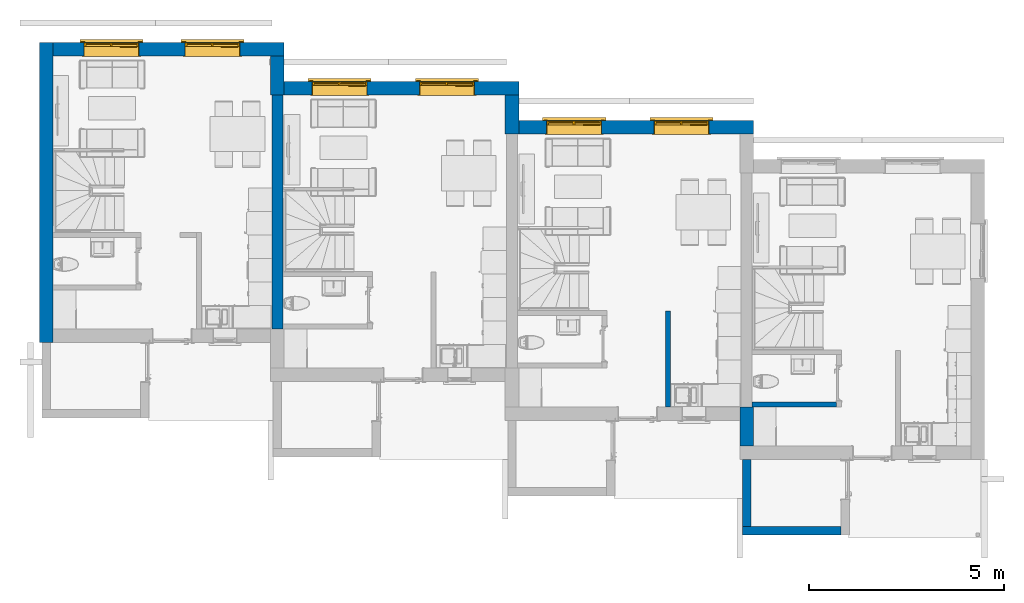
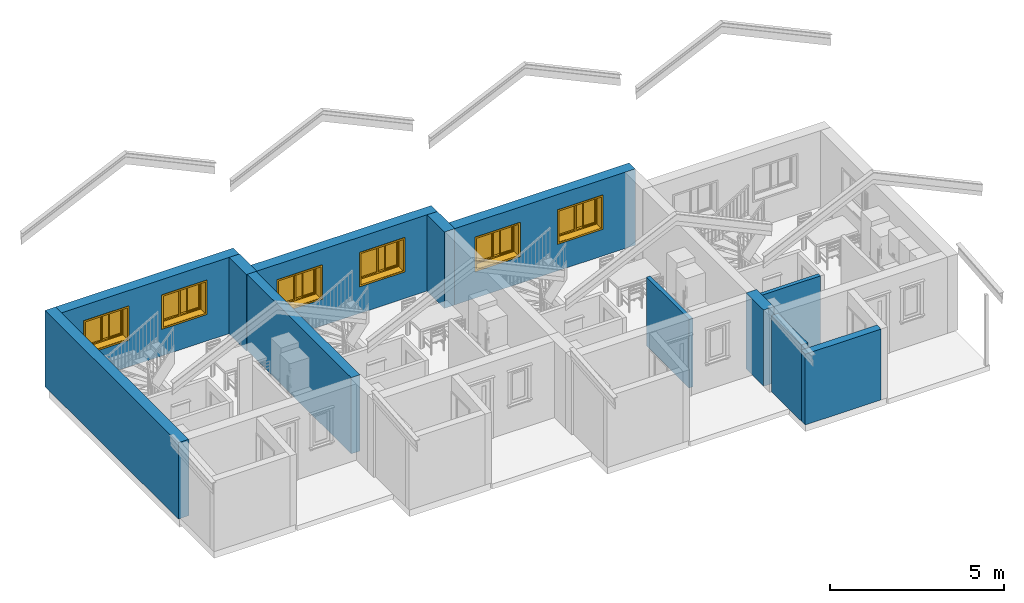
# One storey, part 18 of 65: 12 walls, 6 windows, 6 openings.
"""IFC2X3 building model written with IfcOpenShell, lengths in millimetres."""

from ifc_helpers import new_model, entity, si_unit, converted_unit, direction, frame, frame_2d, origin, place, context, subcontext, project, spatial, polyline, rectangle, extrude, clip, bounded_halfspace, faceted_brep, source, transform, mapped, material, material_list, layer, layer_set, layer_usage, type_object, type_shapes, element, fill, save


model = new_model("IFC2X3")

# Units and contexts
model_context = context("Model", 3, precision=0.01, world=origin(), true_north=direction((0.0, 1.0)))
body_context = subcontext(model_context, "Body", "Model", "MODEL_VIEW")
ifc_project = project(units=[si_unit("LENGTHUNIT", "METRE", prefix="MILLI"), si_unit("AREAUNIT", "SQUARE_METRE"), si_unit("VOLUMEUNIT", "CUBIC_METRE"), converted_unit("PLANEANGLEUNIT", "DEGREE", entity("IfcPlaneAngleMeasure", 0.017453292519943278), si_unit("PLANEANGLEUNIT", "RADIAN"), dimensions=[0, 0, 0, 0, 0, 0, 0])], contexts=[model_context])

# Site, building, storey
site_placement = place(None, origin())
site = spatial("IfcSite", under=ifc_project, at=site_placement, Name="Default", CompositionType="ELEMENT")
building_placement = place(site_placement, origin())
building = spatial("IfcBuilding", under=site, at=building_placement, CompositionType="ELEMENT")
storey_placement = place(building_placement, origin())
storey = spatial("IfcBuildingStorey", under=building, at=storey_placement, Name="Et. 1", CompositionType="ELEMENT", Elevation=0.0)

# Wall
ifc_material_1 = material(Name="Vegg - Stående Kledning_smal - HVIT")
ifc_layer_1 = layer(ifc_material_1, 19.0)
ifc_material_2 = material(Name="Vegg - Utlekting")
ifc_layer_2 = layer(ifc_material_2, 36.0)
ifc_layer_3 = layer(ifc_material_2, 23.0)
ifc_material_3 = material(Name="Vegg - Gips - GU")
ifc_layer_4 = layer(ifc_material_3, 9.0)
ifc_material_4 = material(Name="Vegg - Stender - Isolert")
ifc_layer_5 = layer(ifc_material_4, 198.0)
ifc_material_5 = material(Name="Vegg - Påforing - Isolert")
ifc_layer_6 = layer(ifc_material_5, 48.0)
ifc_material_6 = material(Name="Vegg - Gips - Hvit")
ifc_layer_7 = layer(ifc_material_6, 13.000000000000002)
ifc_layer_set_1 = layer_set([ifc_layer_1, ifc_layer_2, ifc_layer_3, ifc_layer_4, ifc_layer_5, ifc_layer_6, ifc_layer_7], Name="Basic Wall:23-Kv(sm)TIG-19_36_23_9_198_48_13")
ifc_layer_usage_1 = layer_usage(ifc_layer_set_1, "AXIS2", "NEGATIVE", 173.0)
wall_type_1 = type_object("IfcWallType", Name="Basic Wall:23-Kv(sm)TIG-19_36_23_9_198_48_13", PredefinedType="STANDARD", material=ifc_layer_set_1)
wall_1_placement = place(storey_placement, frame((10264.0095867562, 11408.180957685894, 0.0), z_axis=(0.0, 0.0, 1.0), x_axis=(0.0, 1.0, 0.0)))
element("IfcWallStandardCase", 1, at=wall_1_placement, inside=storey, type_object=wall_type_1, material=ifc_layer_usage_1, Name="Basic Wall:23-Kv(sm)TIG-19_36_23_9_198_48_13", context=body_context, shape_type="SweptSolid", body=[
    extrude(rectangle(XDim=7674.0000000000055, YDim=345.9999999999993, at=frame_2d((3837.0000000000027, 5.258016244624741e-13), x_axis=(-1.0, 0.0))), origin(), (0.0, 0.0, 1.0), 2681.0),
])

# Wall, openings, windows
ifc_layer_usage_2 = layer_usage(ifc_layer_set_1, "AXIS2", "NEGATIVE", 173.0)
wall_2_placement = place(storey_placement, frame((10437.00958675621, 18909.180957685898, 0.0)))
wall_2 = element("IfcWallStandardCase", 2, at=wall_2_placement, inside=storey, type_object=wall_type_1, material=ifc_layer_usage_2, Name="Basic Wall:23-Kv(sm)TIG-19_36_23_9_198_48_13", context=body_context, shape_type="SweptSolid", body=[
    extrude(rectangle(XDim=5913.999999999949, YDim=345.9999999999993, at=frame_2d((2956.9999999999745, 2.984279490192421e-13), x_axis=(-1.0, 0.0))), origin(), (0.0, 0.0, 1.0), 2681.0),
])
opening_1_placement = place(wall_2_placement, frame((3371.0, -173.0, 990.0)))
opening_1 = element("IfcOpeningElement", 3, at=opening_1_placement, cuts=wall_2, Name="2 ruter vert-post åpning-fast m omramming:14x11M:1", ObjectType="Opening", context=body_context, shape_type="SweptSolid", body=[
    extrude(rectangle(XDim=1410.0000000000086, YDim=1109.9999999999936, at=frame_2d((554.9999999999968, 705.0000000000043), x_axis=(0.0, -1.0))), frame((0.0, 0.0, 0.0), z_axis=(0.0, 1.0, 0.0), x_axis=(0.0, 0.0, 1.0)), (0.0, 0.0, 1.0), 346.0),
])
opening_2_placement = place(wall_2_placement, frame((787.0, -173.0, 990.0)))
opening_2 = element("IfcOpeningElement", 4, at=opening_2_placement, cuts=wall_2, Name="2 ruter vert-post åpning-fast m omramming:14x11M:1", ObjectType="Opening", context=body_context, shape_type="SweptSolid", body=[
    extrude(rectangle(XDim=1410.0000000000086, YDim=1109.9999999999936, at=frame_2d((554.9999999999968, 705.0000000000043), x_axis=(0.0, -1.0))), frame((0.0, 0.0, 0.0), z_axis=(0.0, 1.0, 0.0), x_axis=(0.0, 0.0, 1.0)), (0.0, 0.0, 1.0), 346.0),
])
ifc_material_7 = material(Name="Omramming")
ifc_material_8 = material(Name="Glass - Klart")
ifc_material_9 = material(Name="Karm")
ifc_material_list = material_list([ifc_material_7, ifc_material_8, ifc_material_9])
window_style = type_object("IfcWindowStyle", Name="2 ruter vert-post åpning-fast m omramming:14x11M", ConstructionType="NOTDEFINED", OperationType="NOTDEFINED", ParameterTakesPrecedence=False, Sizeable=False, material=ifc_material_list)
shared_shape = source(origin(), body_context, "Body", "Brep", [
    faceted_brep([(-73.0, 368.0, 1199.153701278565), (25.0, 368.0, 1199.153701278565), (25.0, 368.0, 4.105117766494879), (-73.0, 368.0, 4.105117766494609), (1385.0, 346.0, -110.0), (1483.0, 346.0, -110.0), (1483.0, 346.0, -12.776075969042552), (1513.0, 346.0, -12.776075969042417), (1513.0, 346.0, 10.0), (1483.0, 346.0, 10.0), (1483.0, 346.0, 1199.153701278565), (1385.0, 346.0, 1199.153701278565), (1385.0, 346.0, 10.0), (25.0, 346.0, 10.0), (25.0, 346.0, 1199.153701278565), (-73.0, 346.0, 1199.153701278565), (-73.0, 346.0, 10.0), (-103.0, 346.0, 10.0), (-103.0, 346.0, -12.776075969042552), (-73.0, 346.0, -12.776075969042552), (-73.0, 346.0, -110.0), (25.0, 346.0, -110.0), (25.0, 346.0, -12.776075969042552), (1385.0, 346.0, -12.776075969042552), (1483.0, 368.0, 1199.153701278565), (1385.0, 368.0, 1199.153701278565), (1483.0, 368.0, 4.105117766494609), (1385.0, 368.0, -110.0), (1483.0, 368.0, -110.0), (1385.0, 368.0, 4.105117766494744), (-73.0, 368.0, -110.0), (25.0, 368.0, -110.0), (-103.0, 413.6148078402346, -30.89340912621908), (-103.0, 419.3088268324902, -9.643040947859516), (1513.0, 413.6148078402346, -30.89340912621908), (1513.0, 419.3088268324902, -9.643040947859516), (1483.0, 368.0, -18.670958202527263), (1385.0, 368.0, -18.670958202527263), (25.0, 368.0, -18.670958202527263), (-73.0, 368.0, -18.670958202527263)], [[[0, 1, 2, 3]], [[4, 5, 6, 7, 8, 9, 10, 11, 12, 13, 14, 15, 16, 17, 18, 19, 20, 21, 22, 23]], [[24, 25, 11, 10]], [[24, 10, 9, 26]], [[27, 28, 5, 4]], [[11, 25, 29, 12]], [[1, 0, 15, 14]], [[1, 14, 13, 2]], [[30, 31, 21, 20]], [[15, 0, 3, 16]], [[32, 18, 17, 33]], [[34, 35, 8, 7]], [[18, 32, 34, 7, 6, 36, 37, 23, 22, 38, 39, 19]], [[33, 17, 16, 3, 2, 13, 12, 29, 26, 9, 8, 35]], [[32, 33, 35, 34]], [[30, 20, 19, 39]], [[21, 31, 38, 22]], [[27, 4, 23, 37]], [[5, 28, 36, 6]], [[31, 30, 39, 38]], [[25, 24, 26, 29]], [[28, 27, 37, 36]]]),
    faceted_brep([(1513.0, 413.52687511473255, 1180.8011105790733), (1513.0, 418.4444369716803, 1199.153701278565), (1513.0, 346.0, 1218.5651296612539), (1513.0, 346.0, 1198.894882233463), (-103.0, 413.52687511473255, 1180.8011105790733), (-103.0, 346.0, 1198.894882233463), (-103.0, 346.0, 1218.5651296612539), (-103.0, 418.4444369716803, 1199.153701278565)], [[[0, 1, 2, 3]], [[4, 5, 6, 7]], [[1, 0, 4, 7]], [[2, 1, 7, 6]], [[3, 2, 6, 5]], [[0, 3, 5, 4]]]),
    faceted_brep([(25.0, 368.0, 1193.0), (1385.0, 368.0, 1193.0), (1385.0, 368.0, 1095.0), (25.0, 368.0, 1095.0), (25.0, 346.0, 1193.0), (25.0, 346.0, 1095.0), (1385.0, 346.0, 1095.0), (1385.0, 346.0, 1193.0)], [[[0, 1, 2, 3]], [[4, 5, 6, 7]], [[1, 0, 4, 7]], [[2, 1, 7, 6]], [[3, 2, 6, 5]], [[0, 3, 5, 4]]]),
    faceted_brep([(1385.0, 368.0, -20.0), (25.0, 368.0, -20.0), (25.0, 346.0, -20.0), (1385.0, 346.0, -20.0), (1385.0, 368.0, -92.0), (1385.0, 346.0, -92.0), (25.0, 368.0, -92.0), (25.0, 346.0, -92.0)], [[[0, 1, 2, 3]], [[4, 0, 3, 5]], [[6, 4, 5, 7]], [[1, 6, 7, 2]], [[2, 7, 5, 3]], [[1, 0, 4, 6]]]),
    faceted_brep([(1345.0, 288.49999999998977, 65.0), (1345.0, 288.4999999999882, 1045.0), (735.0, 288.4999999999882, 1045.0), (735.0, 288.49999999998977, 65.0), (1345.0, 313.49999999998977, 65.0), (735.0, 313.49999999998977, 65.0), (735.0, 313.4999999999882, 1045.0), (1345.0, 313.4999999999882, 1045.0)], [[[0, 1, 2, 3]], [[4, 5, 6, 7]], [[1, 0, 4, 7]], [[2, 1, 7, 6]], [[3, 2, 6, 5]], [[0, 3, 5, 4]]]),
    faceted_brep([(720.0, 331.0, 50.0), (720.0, 331.0, 1060.0), (720.0, 239.0, 1060.0), (720.0, 239.0, 50.0), (1400.0, 239.0, 10.0), (1400.0, 239.0, 1100.0), (10.0, 239.0, 1100.0), (10.0, 239.0, 10.0), (680.0, 239.0, 1060.0), (680.0, 239.0, 50.0), (50.0, 239.0, 50.0), (50.0, 239.0, 1060.0), (925.0, 239.0, 1060.0), (1360.0, 239.0, 1060.0), (1360.0, 239.0, 50.0), (925.0, 239.0, 50.0), (680.0, 331.0, 1060.0), (680.0, 331.0, 50.0), (1360.0, 331.0, 50.0), (1360.0, 331.0, 1060.0), (50.0, 331.0, 1060.0), (50.0, 331.0, 50.0), (1400.0, 331.0, 1100.0), (1400.0, 331.0, 10.0), (10.0, 331.0, 10.0), (10.0, 331.0, 1100.0), (1360.0, 248.0, 50.0), (1360.0, 248.0, 1060.0), (925.0, 248.0, 1060.0), (940.0, 216.0, 65.0), (940.0, 248.0, 65.0), (940.0, 248.0, 1045.0), (940.0, 216.0, 1045.0), (1345.0, 248.0, 1045.0), (1345.0, 216.0, 1045.0), (1345.0, 248.0, 65.0), (1345.0, 216.0, 65.0), (925.0, 248.0, 50.0), (925.0, 216.0, 50.0), (925.0, 216.0, 1060.0), (1360.0, 216.0, 1060.0), (1360.0, 216.0, 50.0)], [[[0, 1, 2, 3]], [[4, 5, 6, 7], [8, 9, 10, 11], [3, 2, 12, 13, 14, 15]], [[9, 8, 16, 17]], [[1, 0, 18, 19], [17, 16, 20, 21], [22, 23, 24, 25]], [[4, 23, 22, 5]], [[19, 18, 26, 27]], [[5, 22, 25, 6]], [[1, 19, 27, 28, 12, 2]], [[6, 25, 24, 7]], [[20, 11, 10, 21]], [[23, 4, 7, 24]], [[21, 10, 9, 17]], [[29, 30, 31, 32]], [[32, 31, 33, 34]], [[34, 33, 35, 36]], [[30, 29, 36, 35]], [[31, 30, 35, 33], [37, 28, 27, 26]], [[38, 39, 12, 28, 37, 15]], [[39, 40, 13, 12]], [[40, 41, 14, 13]], [[29, 32, 34, 36], [39, 38, 41, 40]], [[41, 38, 15, 14]], [[18, 0, 3, 15, 37, 26]], [[11, 20, 16, 8]]], outer=[[True], [True, False, False], [True], [False, False, True], [True], [True], [True], [True], [True], [True], [True], [True], [True], [True], [True], [True], [False, True], [True], [True], [True], [False, True], [True], [True], [True]]),
    faceted_brep([(680.0, 288.49999999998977, 50.0), (680.0, 288.4999999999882, 1060.0), (50.0, 288.4999999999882, 1060.0), (50.0, 288.49999999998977, 50.0), (680.0, 313.49999999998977, 50.0), (50.0, 313.49999999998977, 50.0), (50.0, 313.4999999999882, 1060.0), (680.0, 313.4999999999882, 1060.0)], [[[0, 1, 2, 3]], [[4, 5, 6, 7]], [[1, 0, 4, 7]], [[2, 1, 7, 6]], [[3, 2, 6, 5]], [[0, 3, 5, 4]]]),
    faceted_brep([(1410.0, 239.0, 1110.0), (1410.0, 239.0, 0.0), (0.0, 239.0, 0.0), (0.0, 239.0, 1110.0), (10.0, 239.0, 10.0), (1400.0, 239.0, 10.0), (1400.0, 239.0, 1100.0), (10.0, 239.0, 1100.0), (1410.0, 0.0, 1110.0), (0.0, 0.0, 1110.0), (0.0, 0.0, 0.0), (1410.0, 0.0, 0.0), (10.0, 0.0, 10.0), (10.0, 0.0, 1100.0), (1400.0, 0.0, 1100.0), (1400.0, 0.0, 10.0)], [[[0, 1, 2, 3], [4, 5, 6, 7]], [[8, 9, 10, 11], [12, 13, 14, 15]], [[1, 0, 8, 11]], [[2, 1, 11, 10]], [[3, 2, 10, 9]], [[0, 3, 9, 8]], [[5, 4, 12, 15]], [[6, 5, 15, 14]], [[7, 6, 14, 13]], [[4, 7, 13, 12]]]),
    faceted_brep([(1405.0, -12.0, 1105.0), (1405.0, 0.0, 1105.0), (1405.0, 0.0, 5.0), (1405.0, -12.0, 5.0), (1457.0, 0.0, 1157.0), (1457.0, -12.0, 1157.0), (1457.0, -12.0, -47.0), (1457.0, 0.0, -47.0), (5.0, 0.0, 5.0), (5.0, -12.0, 5.0), (-47.0, -12.0, -47.0), (-47.0, 0.0, -47.0), (5.0, 0.0, 1105.0), (5.0, -12.0, 1105.0), (-47.0, -12.0, 1157.0), (-47.0, 0.0, 1157.0)], [[[0, 1, 2, 3]], [[4, 5, 6, 7]], [[3, 2, 8, 9]], [[7, 6, 10, 11]], [[9, 8, 12, 13]], [[11, 10, 14, 15]], [[7, 11, 15, 4], [1, 12, 8, 2]], [[13, 12, 1, 0]], [[3, 9, 13, 0], [5, 14, 10, 6]], [[15, 14, 5, 4]]], outer=[[True], [True], [True], [True], [True], [True], [True, False], [True], [False, True], [True]]),
])
type_shapes(window_style, [shared_shape])
window_1_placement = place(opening_1_placement, origin())
window_1 = element("IfcWindow", 5, at=window_1_placement, inside=storey, type_object=window_style, material=ifc_material_list, Name="2 ruter vert-post åpning-fast m omramming:14x11M", OverallHeight=1109.9999999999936, OverallWidth=1410.0000000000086, context=body_context, shape_type="MappedRepresentation", body=[
    mapped(shared_shape, transform((0.0, 0.0, 0.0), scale=1.0)),
])
fill(opening_1, window_1)
window_2_placement = place(opening_2_placement, origin())
window_2 = element("IfcWindow", 6, at=window_2_placement, inside=storey, type_object=window_style, material=ifc_material_list, Name="2 ruter vert-post åpning-fast m omramming:14x11M", OverallHeight=1109.9999999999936, OverallWidth=1410.0000000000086, context=body_context, shape_type="MappedRepresentation", body=[
    mapped(shared_shape, transform((0.0, 0.0, 0.0), scale=1.0)),
])
fill(opening_2, window_2)

# Wall
ifc_layer_usage_3 = layer_usage(ifc_layer_set_1, "AXIS2", "NEGATIVE", 173.0)
wall_3_placement = place(storey_placement, frame((16178.009586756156, 18736.180957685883, 0.0), z_axis=(0.0, 0.0, 1.0), x_axis=(0.0, -1.0, 0.0)))
element("IfcWallStandardCase", 7, at=wall_3_placement, inside=storey, type_object=wall_type_1, material=ifc_layer_usage_3, Name="Basic Wall:23-Kv(sm)TIG-19_36_23_9_198_48_13", context=body_context, shape_type="SweptSolid", body=[
    extrude(rectangle(XDim=1000.0000000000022, YDim=345.9999999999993, at=frame_2d((500.0000000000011, 0.0), x_axis=(-1.0, 0.0))), origin(), (0.0, 0.0, 1.0), 2681.0),
])

# Wall, openings, windows
ifc_layer_usage_4 = layer_usage(ifc_layer_set_1, "AXIS2", "NEGATIVE", 173.0)
wall_4_placement = place(storey_placement, frame((16351.009586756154, 17909.18095768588, 0.0)))
wall_4 = element("IfcWallStandardCase", 8, at=wall_4_placement, inside=storey, type_object=wall_type_1, material=ifc_layer_usage_4, Name="Basic Wall:23-Kv(sm)TIG-19_36_23_9_198_48_13", context=body_context, shape_type="SweptSolid", body=[
    extrude(rectangle(XDim=6000.000000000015, YDim=345.9999999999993, at=frame_2d((3000.0000000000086, 4.405364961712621e-13), x_axis=(-1.0, 0.0))), origin(), (0.0, 0.0, 1.0), 2681.0),
])
opening_3_placement = place(wall_4_placement, frame((713.0, -173.0, 990.0)))
opening_3 = element("IfcOpeningElement", 9, at=opening_3_placement, cuts=wall_4, Name="2 ruter vert-post åpning-fast m omramming:14x11M:1", ObjectType="Opening", context=body_context, shape_type="SweptSolid", body=[
    extrude(rectangle(XDim=1410.0000000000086, YDim=1109.9999999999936, at=frame_2d((554.9999999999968, 705.0000000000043), x_axis=(0.0, -1.0))), frame((0.0, 0.0, 0.0), z_axis=(0.0, 1.0, 0.0), x_axis=(0.0, 0.0, 1.0)), (0.0, 0.0, 1.0), 346.0),
])
opening_4_placement = place(wall_4_placement, frame((3457.0, -173.0, 990.0)))
opening_4 = element("IfcOpeningElement", 10, at=opening_4_placement, cuts=wall_4, Name="2 ruter vert-post åpning-fast m omramming:14x11M:1", ObjectType="Opening", context=body_context, shape_type="SweptSolid", body=[
    extrude(rectangle(XDim=1410.0000000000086, YDim=1109.9999999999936, at=frame_2d((554.9999999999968, 705.0000000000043), x_axis=(0.0, -1.0))), frame((0.0, 0.0, 0.0), z_axis=(0.0, 1.0, 0.0), x_axis=(0.0, 0.0, 1.0)), (0.0, 0.0, 1.0), 346.0),
])
window_3_placement = place(opening_3_placement, origin())
window_3 = element("IfcWindow", 11, at=window_3_placement, inside=storey, type_object=window_style, material=ifc_material_list, Name="2 ruter vert-post åpning-fast m omramming:14x11M", OverallHeight=1109.9999999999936, OverallWidth=1410.0000000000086, context=body_context, shape_type="MappedRepresentation", body=[
    mapped(shared_shape, transform((0.0, 0.0, 0.0), scale=1.0)),
])
fill(opening_3, window_3)
window_4_placement = place(opening_4_placement, origin())
window_4 = element("IfcWindow", 12, at=window_4_placement, inside=storey, type_object=window_style, material=ifc_material_list, Name="2 ruter vert-post åpning-fast m omramming:14x11M", OverallHeight=1109.9999999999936, OverallWidth=1410.0000000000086, context=body_context, shape_type="MappedRepresentation", body=[
    mapped(shared_shape, transform((0.0, 0.0, 0.0), scale=1.0)),
])
fill(opening_4, window_4)

# Wall
ifc_layer_usage_5 = layer_usage(ifc_layer_set_1, "AXIS2", "NEGATIVE", 173.0)
wall_5_placement = place(storey_placement, frame((22178.00958675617, 17736.18095768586, 0.0), z_axis=(0.0, 0.0, 1.0), x_axis=(0.0, -1.0, 0.0)))
element("IfcWallStandardCase", 13, at=wall_5_placement, inside=storey, type_object=wall_type_1, material=ifc_layer_usage_5, Name="Basic Wall:23-Kv(sm)TIG-19_36_23_9_198_48_13", context=body_context, shape_type="SweptSolid", body=[
    extrude(rectangle(XDim=1000.0000000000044, YDim=345.9999999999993, at=frame_2d((500.0000000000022, 0.0), x_axis=(-1.0, 0.0))), origin(), (0.0, 0.0, 1.0), 2681.0),
])

# Wall, openings, windows
ifc_layer_usage_6 = layer_usage(ifc_layer_set_1, "AXIS2", "NEGATIVE", 173.0)
wall_6_placement = place(storey_placement, frame((22351.00958675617, 16909.180957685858, 0.0)))
wall_6 = element("IfcWallStandardCase", 14, at=wall_6_placement, inside=storey, type_object=wall_type_1, material=ifc_layer_usage_6, Name="Basic Wall:23-Kv(sm)TIG-19_36_23_9_198_48_13", context=body_context, shape_type="SweptSolid", body=[
    extrude(rectangle(XDim=6000.0000000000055, YDim=345.9999999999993, at=frame_2d((3000.0000000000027, -6.394884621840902e-13), x_axis=(-1.0, 0.0))), origin(), (0.0, 0.0, 1.0), 2681.0),
])
opening_5_placement = place(wall_6_placement, frame((713.0, -173.0, 990.0)))
opening_5 = element("IfcOpeningElement", 15, at=opening_5_placement, cuts=wall_6, Name="2 ruter vert-post åpning-fast m omramming:14x11M:1", ObjectType="Opening", context=body_context, shape_type="SweptSolid", body=[
    extrude(rectangle(XDim=1410.0000000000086, YDim=1109.9999999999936, at=frame_2d((554.9999999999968, 705.0000000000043), x_axis=(0.0, -1.0))), frame((0.0, 0.0, 0.0), z_axis=(0.0, 1.0, 0.0), x_axis=(0.0, 0.0, 1.0)), (0.0, 0.0, 1.0), 346.0),
])
opening_6_placement = place(wall_6_placement, frame((3457.0, -173.0, 990.0)))
opening_6 = element("IfcOpeningElement", 16, at=opening_6_placement, cuts=wall_6, Name="2 ruter vert-post åpning-fast m omramming:14x11M:1", ObjectType="Opening", context=body_context, shape_type="SweptSolid", body=[
    extrude(rectangle(XDim=1410.0000000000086, YDim=1109.9999999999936, at=frame_2d((554.9999999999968, 705.0000000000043), x_axis=(0.0, -1.0))), frame((0.0, 0.0, 0.0), z_axis=(0.0, 1.0, 0.0), x_axis=(0.0, 0.0, 1.0)), (0.0, 0.0, 1.0), 346.0),
])
window_5_placement = place(opening_5_placement, origin())
window_5 = element("IfcWindow", 17, at=window_5_placement, inside=storey, type_object=window_style, material=ifc_material_list, Name="2 ruter vert-post åpning-fast m omramming:14x11M", OverallHeight=1109.9999999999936, OverallWidth=1410.0000000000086, context=body_context, shape_type="MappedRepresentation", body=[
    mapped(shared_shape, transform((0.0, 0.0, 0.0), scale=1.0)),
])
fill(opening_5, window_5)
window_6_placement = place(opening_6_placement, origin())
window_6 = element("IfcWindow", 18, at=window_6_placement, inside=storey, type_object=window_style, material=ifc_material_list, Name="2 ruter vert-post åpning-fast m omramming:14x11M", OverallHeight=1109.9999999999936, OverallWidth=1410.0000000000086, context=body_context, shape_type="MappedRepresentation", body=[
    mapped(shared_shape, transform((0.0, 0.0, 0.0), scale=1.0)),
])
fill(opening_6, window_6)

# Walls
ifc_layer_usage_7 = layer_usage(ifc_layer_set_1, "AXIS2", "NEGATIVE", 173.0)
wall_7_placement = place(storey_placement, frame((28178.009586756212, 8754.180957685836, 0.0), z_axis=(0.0, 0.0, 1.0), x_axis=(0.0, 1.0, 0.0)))
element("IfcWallStandardCase", 19, at=wall_7_placement, inside=storey, type_object=wall_type_1, material=ifc_layer_usage_7, Name="Basic Wall:23-Kv(sm)TIG-19_36_23_9_198_48_13", context=body_context, shape_type="SweptSolid", body=[
    extrude(rectangle(XDim=1000.0000000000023, YDim=345.9999999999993, at=frame_2d((500.00000000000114, 0.0), x_axis=(-1.0, 0.0))), origin(), (0.0, 0.0, 1.0), 2681.0),
])
ifc_material_10 = material(Name="Vegg - Gips - Innvendig - Hvit")
ifc_layer_8 = layer(ifc_material_10, 13.000000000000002)
ifc_layer_9 = layer(ifc_material_10, 13.000000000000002)
ifc_layer_10 = layer(ifc_material_4, 100.0)
ifc_material_11 = material(Name="Vegg - Luftsjikt")
ifc_layer_11 = layer(ifc_material_11, 40.0)
ifc_layer_12 = layer(ifc_material_4, 100.0)
ifc_layer_13 = layer(ifc_material_10, 13.000000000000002)
ifc_layer_14 = layer(ifc_material_10, 13.000000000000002)
ifc_layer_set_2 = layer_set([ifc_layer_8, ifc_layer_9, ifc_layer_10, ifc_layer_11, ifc_layer_12, ifc_layer_13, ifc_layer_14], Name="Basic Wall:24-GSISIG-26_100_40_100_26")
ifc_layer_usage_8 = layer_usage(ifc_layer_set_2, "AXIS2", "NEGATIVE", 146.00000000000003)
wall_type_2 = type_object("IfcWallType", Name="Basic Wall:24-GSISIG-26_100_40_100_26", PredefinedType="STANDARD", material=ifc_layer_set_2)
wall_8_placement = place(storey_placement, frame((16178.009586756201, 11754.180957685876, 0.0), z_axis=(0.0, 0.0, 1.0), x_axis=(0.0, 1.0, 0.0)))
element("IfcWallStandardCase", 20, at=wall_8_placement, inside=storey, type_object=wall_type_2, material=ifc_layer_usage_8, Name="Basic Wall:24-GSISIG-26_100_40_100_26", context=body_context, shape_type="SweptSolid", body=[
    extrude(rectangle(XDim=5982.000000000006, YDim=291.9999999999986, at=frame_2d((2991.000000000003, 3.694822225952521e-13), x_axis=(-1.0, 0.0))), origin(), (0.0, 0.0, 1.0), 2681.0),
])
ifc_layer_15 = layer(ifc_material_1, 19.0)
ifc_layer_16 = layer(ifc_material_4, 198.0)
ifc_layer_set_3 = layer_set([ifc_layer_15, ifc_layer_16], Name="Basic Wall:23-Kv(sm)TIG-19_Bod")
ifc_layer_usage_9 = layer_usage(ifc_layer_set_3, "AXIS2", "NEGATIVE", 108.5)
wall_type_3 = type_object("IfcWallType", Name="Basic Wall:23-Kv(sm)TIG-19_Bod", PredefinedType="STANDARD", material=ifc_layer_set_3)
wall_9_placement = place(storey_placement, frame((30590.509586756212, 6584.680957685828, 0.0), z_axis=(0.0, 0.0, 1.0), x_axis=(-1.0, 0.0, 0.0)))
element("IfcWallStandardCase", 21, at=wall_9_placement, inside=storey, type_object=wall_type_3, material=ifc_layer_usage_9, Name="Basic Wall:23-Kv(sm)TIG-19_Bod", context=body_context, shape_type="Clipping", body=[
    clip(extrude(rectangle(XDim=2521.0000000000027, YDim=217.00000000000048, at=frame_2d((1260.5000000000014, 4.760636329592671e-13), x_axis=(-1.0, 0.0))), origin(), (0.0, 0.0, 1.0), 2507.596553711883), bounded_halfspace(frame((0.0, -108.50000000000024, 2507.5965537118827), z_axis=(0.0, 0.08715574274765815, 0.9961946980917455), x_axis=(-1.0, 0.0, 0.0)), False, frame((0.0, -108.50000000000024, 2507.5965537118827)), polyline([(0.0, 0.0), (2521.0, 0.0), (2521.0, 217.0), (0.0, 217.0), (0.0, 0.0)]))),
])
ifc_layer_usage_10 = layer_usage(ifc_layer_set_3, "AXIS2", "NEGATIVE", 108.5)
wall_10_placement = place(storey_placement, frame((28178.00958675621, 6693.180957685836, 0.0), z_axis=(0.0, 0.0, 1.0), x_axis=(0.0, 1.0, 0.0)))
element("IfcWallStandardCase", 22, at=wall_10_placement, inside=storey, type_object=wall_type_3, material=ifc_layer_usage_10, Name="Basic Wall:23-Kv(sm)TIG-19_Bod", context=body_context, shape_type="SweptSolid", body=[
    extrude(rectangle(XDim=1715.000000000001, YDim=217.00000000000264, at=frame_2d((857.5000000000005, 2.7711166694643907e-13), x_axis=(-1.0, 0.0))), origin(), (0.0, 0.0, 1.0), 2681.0),
])
ifc_layer_17 = layer(ifc_material_10, 13.000000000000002)
ifc_material_12 = material(Name="Vegg - Stender - Stål - Isolert")
ifc_layer_18 = layer(ifc_material_12, 100.0)
ifc_layer_19 = layer(ifc_material_10, 13.000000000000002)
ifc_layer_set_4 = layer_set([ifc_layer_17, ifc_layer_18, ifc_layer_19], Name="Basic Wall:24-GSIG-13_100_13")
ifc_layer_usage_11 = layer_usage(ifc_layer_set_4, "AXIS2", "NEGATIVE", 63.00000000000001)
wall_type_4 = type_object("IfcWallType", Name="Basic Wall:24-GSIG-13_100_13", PredefinedType="STANDARD", material=ifc_layer_set_4)
wall_11_placement = place(storey_placement, frame((26169.00958675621, 9754.180957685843, 0.0), z_axis=(0.0, 0.0, 1.0), x_axis=(0.0, 1.0, 0.0)))
element("IfcWallStandardCase", 23, at=wall_11_placement, inside=storey, type_object=wall_type_4, material=ifc_layer_usage_11, Name="Basic Wall:24-GSIG-13_100_13", context=body_context, shape_type="SweptSolid", body=[
    extrude(rectangle(XDim=2451.8777614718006, YDim=125.99999999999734, at=frame_2d((1225.9388807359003, 4.618527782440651e-14), x_axis=(-1.0, 0.0))), origin(), (0.0, 0.0, 1.0), 2413.0),
])
ifc_layer_usage_12 = layer_usage(ifc_layer_set_4, "AXIS2", "NEGATIVE", 63.00000000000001)
wall_12_placement = place(storey_placement, frame((30479.009586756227, 9817.180957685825, 0.0), z_axis=(0.0, 0.0, 1.0), x_axis=(-1.0, 0.0, 0.0)))
element("IfcWallStandardCase", 24, at=wall_12_placement, inside=storey, type_object=wall_type_4, material=ifc_layer_usage_12, Name="Basic Wall:24-GSIG-13_100_13", context=body_context, shape_type="SweptSolid", body=[
    extrude(rectangle(XDim=2155.0000000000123, YDim=126.00000000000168, at=frame_2d((1077.5000000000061, -7.105427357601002e-14), x_axis=(-1.0, 0.0))), origin(), (0.0, 0.0, 1.0), 2413.0),
])

save(model, "model.ifc")
